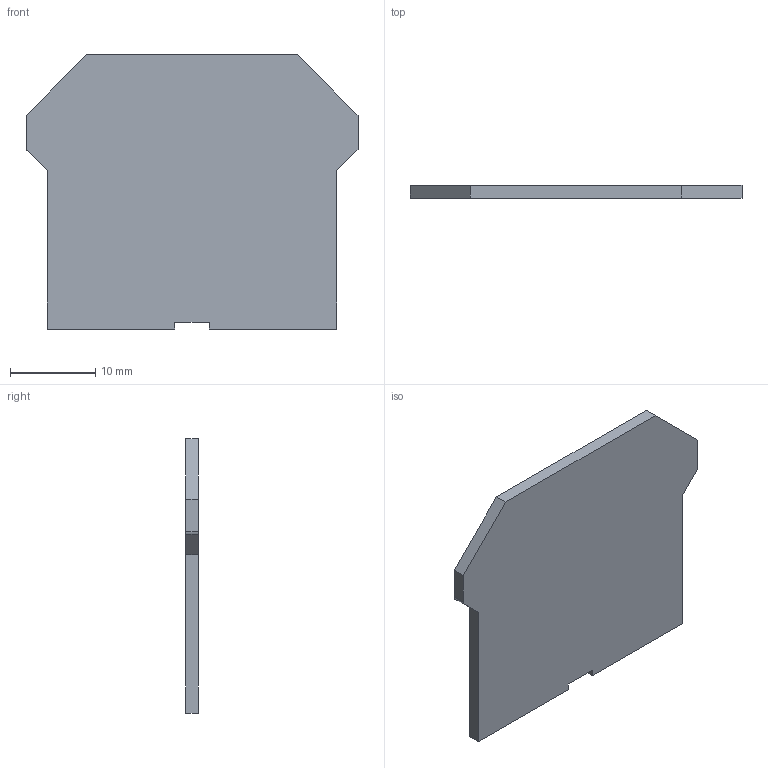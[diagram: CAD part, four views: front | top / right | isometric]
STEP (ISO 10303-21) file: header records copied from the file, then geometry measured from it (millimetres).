
FILE_DESCRIPTION(/* description */ ('Unknown'),/* implementation_level */ '2;1');
FILE_NAME(/* name */ 'EP2.5_4UN',/* time_stamp */ '2021-08-13T16:45:21+05:00',/* author */ ('Unknown'),/* organization */ ('Unknown'),/* preprocessor_version */ 'ST-DEVELOPER v16.7',/* originating_system */ 'DEX',/* authorisation */ $);
FILE_SCHEMA (('AUTOMOTIVE_DESIGN {1 0 10303 214 3 1 1}'));
Length unit declared in the file: millimetre
Products named in the file (1): EP2.5_4UN
Bounding box: 39 x 1.5 x 32.2 mm (x, y, z)
Volume: 1655.4 mm3; surface area: 2406.4 mm2
Topology: 1 solids, 1 shells, 17 faces, 45 edges, 30 vertices
Faces by surface type: plane 16, cylinder 1
Entity records: 551 total; most frequent: CARTESIAN_POINT 93, ORIENTED_EDGE 90, DIRECTION 83, EDGE_CURVE 45, LINE 43, VECTOR 43, VERTEX_POINT 30, AXIS2_PLACEMENT_3D 20
